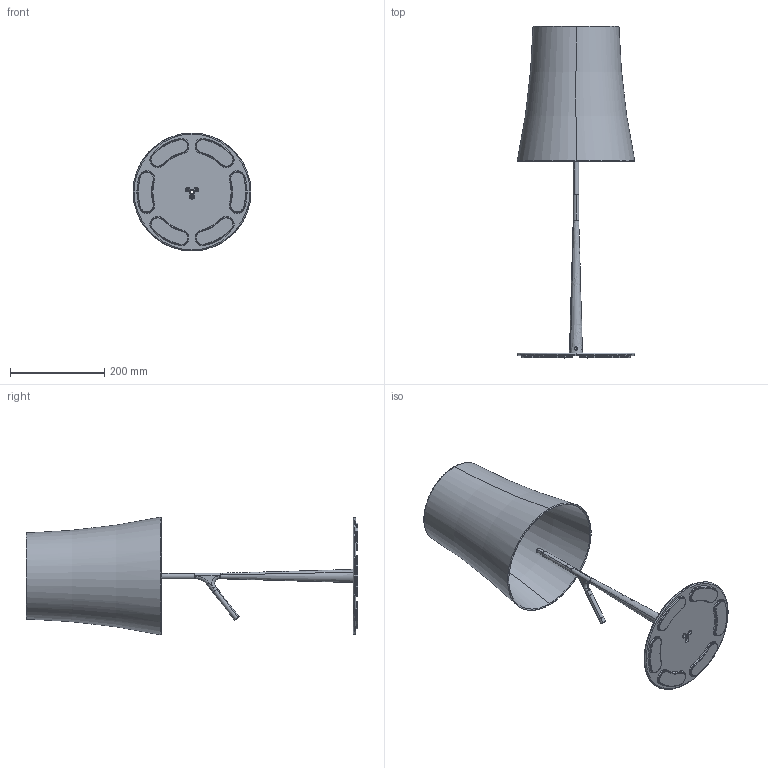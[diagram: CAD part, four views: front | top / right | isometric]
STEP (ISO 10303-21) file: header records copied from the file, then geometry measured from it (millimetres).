
FILE_DESCRIPTION (( 'STEP AP214' ), '1' );
FILE_NAME ('221_GRANDE_T_XX_3D.STEP', '2021-04-30T15:04:15', ( '' ), ( '' ), 'SwSTEP 2.0', 'SolidWorks 2021', '' );
FILE_SCHEMA (( 'AUTOMOTIVE_DESIGN' ));
Length unit declared in the file: millimetre
Products named in the file (1): 221_GRANDE_T_XX_3D
Bounding box: 250 x 703.95 x 250 mm (x, y, z)
Volume: 1001460.2 mm3; surface area: 539083.5 mm2
Topology: 6 solids, 6 shells, 213 faces, 512 edges, 309 vertices
Faces by surface type: torus 80, cylinder 76, cone 30, plane 21, bspline 6
Entity records: 11131 total; most frequent: CARTESIAN_POINT 3628, DIRECTION 1187, ORIENTED_EDGE 1012, AXIS2_PLACEMENT_3D 538, EDGE_CURVE 506, CIRCLE 330, VERTEX_POINT 309, EDGE_LOOP 239
